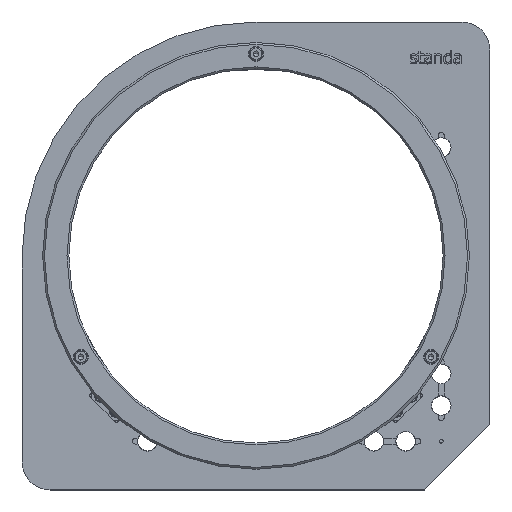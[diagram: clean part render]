
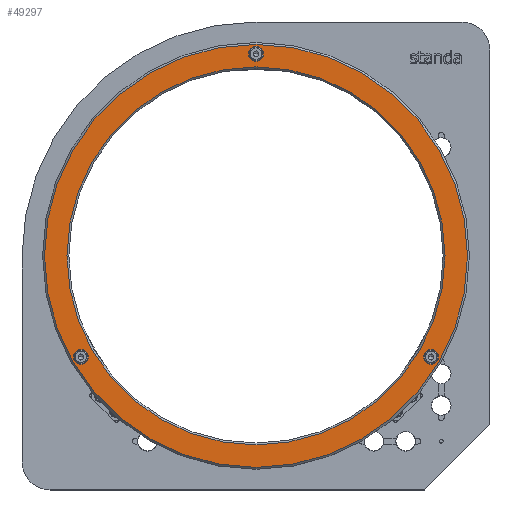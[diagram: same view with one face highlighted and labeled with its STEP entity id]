
A CAD part, top view. The second image highlights one B-rep face of the part: STEP entity #49297.
In plain terms, the highlighted planar face has unit normal (0, 0, 1).
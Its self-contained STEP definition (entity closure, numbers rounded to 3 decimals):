
#15341=CARTESIAN_POINT('',(97.531,-54.,51.4));
#15342=VERTEX_POINT('',#15341);
#15351=CARTESIAN_POINT('',(89.531,-54.,51.4));
#15352=VERTEX_POINT('',#15351);
#15353=CARTESIAN_POINT('',(93.531,-54.,51.4));
#15354=DIRECTION('',(0.0,0.0,-1.0));
#15355=DIRECTION('',(1.0,0.0,0.0));
#15356=AXIS2_PLACEMENT_3D('',#15353,#15354,#15355);
#15357=CIRCLE('',#15356,4.0);
#15358=EDGE_CURVE('',#15352,#15342,#15357,.T.);
#15467=CARTESIAN_POINT('',(4.,108.,51.4));
#15468=VERTEX_POINT('',#15467);
#15477=CARTESIAN_POINT('',(-4.,108.,51.4));
#15478=VERTEX_POINT('',#15477);
#15479=CARTESIAN_POINT('',(0.,108.,51.4));
#15480=DIRECTION('',(0.0,0.0,-1.0));
#15481=DIRECTION('',(1.0,0.0,0.0));
#15482=AXIS2_PLACEMENT_3D('',#15479,#15480,#15481);
#15483=CIRCLE('',#15482,4.0);
#15484=EDGE_CURVE('',#15478,#15468,#15483,.T.);
#15593=CARTESIAN_POINT('',(-89.531,-54.,51.4));
#15594=VERTEX_POINT('',#15593);
#15603=CARTESIAN_POINT('',(-97.531,-54.,51.4));
#15604=VERTEX_POINT('',#15603);
#15605=CARTESIAN_POINT('',(-93.531,-54.,51.4));
#15606=DIRECTION('',(0.0,0.0,-1.0));
#15607=DIRECTION('',(1.0,0.0,0.0));
#15608=AXIS2_PLACEMENT_3D('',#15605,#15606,#15607);
#15609=CIRCLE('',#15608,4.0);
#15610=EDGE_CURVE('',#15604,#15594,#15609,.T.);
#15635=CARTESIAN_POINT('',(113.,0.,51.4));
#15636=VERTEX_POINT('',#15635);
#15645=CARTESIAN_POINT('',(-113.,0.,51.4));
#15646=VERTEX_POINT('',#15645);
#15647=CARTESIAN_POINT('',(0.,0.,51.4));
#15648=DIRECTION('',(0.0,0.0,-1.0));
#15649=DIRECTION('',(1.0,0.0,0.0));
#15650=AXIS2_PLACEMENT_3D('',#15647,#15648,#15649);
#15651=CIRCLE('',#15650,113.);
#15652=EDGE_CURVE('',#15636,#15646,#15651,.T.);
#15719=CARTESIAN_POINT('',(101.,0.,51.4));
#15720=VERTEX_POINT('',#15719);
#15728=CARTESIAN_POINT('',(-101.,0.,51.4));
#15729=VERTEX_POINT('',#15728);
#15736=CARTESIAN_POINT('',(0.,0.,51.4));
#15737=DIRECTION('',(0.0,0.0,1.0));
#15738=DIRECTION('',(1.0,0.0,0.0));
#15739=AXIS2_PLACEMENT_3D('',#15736,#15737,#15738);
#15740=CIRCLE('',#15739,101.0);
#15741=EDGE_CURVE('',#15729,#15720,#15740,.T.);
#49230=CARTESIAN_POINT('',(0.,0.,51.4));
#49231=DIRECTION('',(0.0,0.0,1.0));
#49232=DIRECTION('',(1.0,0.0,0.0));
#49233=AXIS2_PLACEMENT_3D('',#49230,#49231,#49232);
#49234=CIRCLE('',#49233,101.0);
#49235=EDGE_CURVE('',#15720,#15729,#49234,.T.);
#49248=CARTESIAN_POINT('',(-100.,0.,51.4));
#49249=DIRECTION('',(0.0,0.0,1.0));
#49250=DIRECTION('',(0.0,-1.0,0.0));
#49251=AXIS2_PLACEMENT_3D('',#49248,#49249,#49250);
#49252=PLANE('',#49251);
#49253=CARTESIAN_POINT('',(0.,0.,51.4));
#49254=DIRECTION('',(0.0,0.0,-1.0));
#49255=DIRECTION('',(1.0,0.0,0.0));
#49256=AXIS2_PLACEMENT_3D('',#49253,#49254,#49255);
#49257=CIRCLE('',#49256,113.);
#49258=EDGE_CURVE('',#15646,#15636,#49257,.T.);
#49259=ORIENTED_EDGE('',*,*,#49258,.F.);
#49260=ORIENTED_EDGE('',*,*,#15652,.F.);
#49261=EDGE_LOOP('',(#49259,#49260));
#49262=FACE_OUTER_BOUND('',#49261,.T.);
#49263=CARTESIAN_POINT('',(-93.531,-54.,51.4));
#49264=DIRECTION('',(0.0,0.0,-1.0));
#49265=DIRECTION('',(1.0,0.0,0.0));
#49266=AXIS2_PLACEMENT_3D('',#49263,#49264,#49265);
#49267=CIRCLE('',#49266,4.0);
#49268=EDGE_CURVE('',#15594,#15604,#49267,.T.);
#49269=ORIENTED_EDGE('',*,*,#49268,.T.);
#49270=ORIENTED_EDGE('',*,*,#15610,.T.);
#49271=EDGE_LOOP('',(#49269,#49270));
#49272=FACE_BOUND('',#49271,.T.);
#49273=CARTESIAN_POINT('',(0.,108.,51.4));
#49274=DIRECTION('',(0.0,0.0,-1.0));
#49275=DIRECTION('',(1.0,0.0,0.0));
#49276=AXIS2_PLACEMENT_3D('',#49273,#49274,#49275);
#49277=CIRCLE('',#49276,4.0);
#49278=EDGE_CURVE('',#15468,#15478,#49277,.T.);
#49279=ORIENTED_EDGE('',*,*,#49278,.T.);
#49280=ORIENTED_EDGE('',*,*,#15484,.T.);
#49281=EDGE_LOOP('',(#49279,#49280));
#49282=FACE_BOUND('',#49281,.T.);
#49283=CARTESIAN_POINT('',(93.531,-54.,51.4));
#49284=DIRECTION('',(0.0,0.0,-1.0));
#49285=DIRECTION('',(1.0,0.0,0.0));
#49286=AXIS2_PLACEMENT_3D('',#49283,#49284,#49285);
#49287=CIRCLE('',#49286,4.0);
#49288=EDGE_CURVE('',#15342,#15352,#49287,.T.);
#49289=ORIENTED_EDGE('',*,*,#49288,.T.);
#49290=ORIENTED_EDGE('',*,*,#15358,.T.);
#49291=EDGE_LOOP('',(#49289,#49290));
#49292=FACE_BOUND('',#49291,.T.);
#49293=ORIENTED_EDGE('',*,*,#15741,.F.);
#49294=ORIENTED_EDGE('',*,*,#49235,.F.);
#49295=EDGE_LOOP('',(#49293,#49294));
#49296=FACE_BOUND('',#49295,.T.);
#49297=ADVANCED_FACE('',(#49262,#49272,#49282,#49292,#49296),#49252,.T.);
